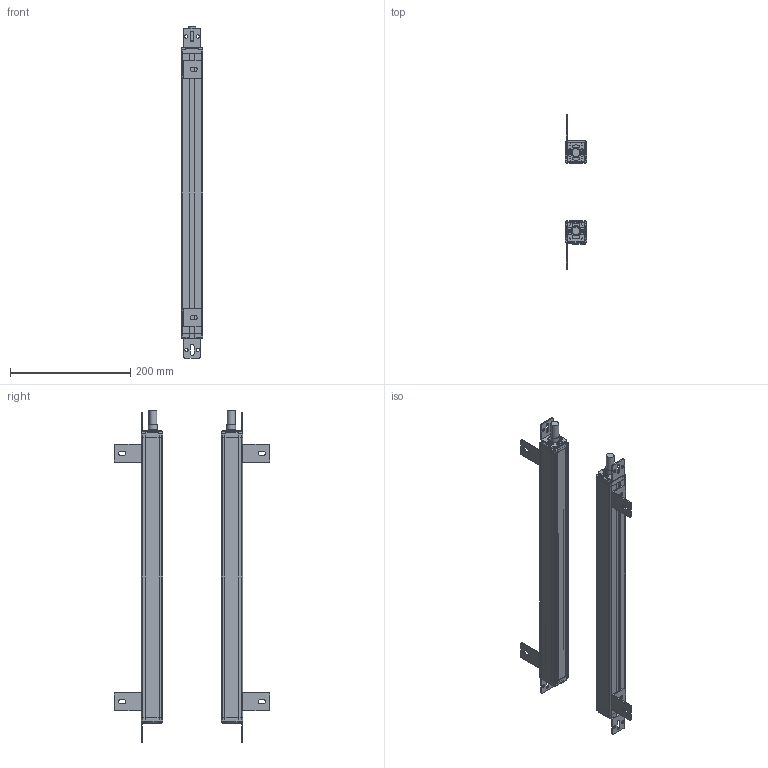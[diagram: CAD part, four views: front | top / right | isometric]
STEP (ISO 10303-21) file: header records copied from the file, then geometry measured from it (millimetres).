
FILE_DESCRIPTION(/* description */ (''),/* implementation_level */ '2;1');
FILE_NAME(/* name */ '4410_35X35_stp_stp.stp',/* time_stamp */ '2023-09-18T17:20:09+08:00',/* author */ (''),/* organization */ (''),/* preprocessor_version */ 'ST-DEVELOPER v16.7',/* originating_system */ 'SIEMENS PLM Software NX 12.0',/* authorisation */ '');
FILE_SCHEMA (('AP203_CONFIGURATION_CONTROLLED_3D_DESIGN_OF_MECHANICAL_PARTS_AND_ASSEMBLIES_MIM_LF { 1 0 10303 403 2 1 2}'));
Length unit declared in the file: millimetre
Products named in the file (1): 0420_35X35_stp_stp
Bounding box: 35.41 x 258.01 x 551.6 mm (x, y, z)
Volume: 499531.6 mm3; surface area: 382814.5 mm2
Topology: 28 solids, 28 shells, 1182 faces, 3360 edges, 2260 vertices
Faces by surface type: plane 658, cylinder 464, cone 60
Full cylindrical faces by diameter (mm): 3.2 x8, 6 x24, 13 x2, 14.4 x2, 15 x2
Entity records: 39055 total; most frequent: DIRECTION 6832, CARTESIAN_POINT 6745, ORIENTED_EDGE 6612, EDGE_CURVE 3306, AXIS2_PLACEMENT_3D 2347, VERTEX_POINT 2244, LINE 2138, VECTOR 2138
